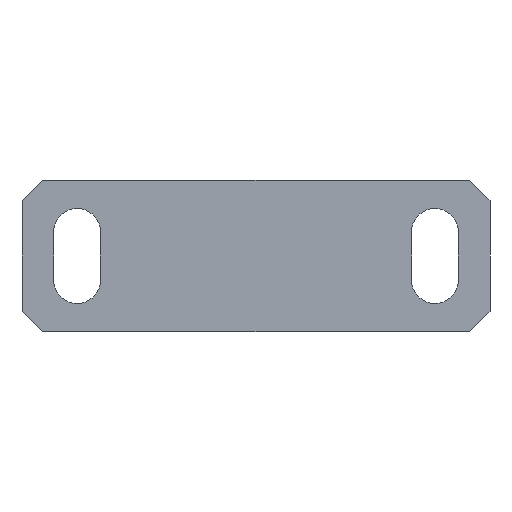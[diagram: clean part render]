
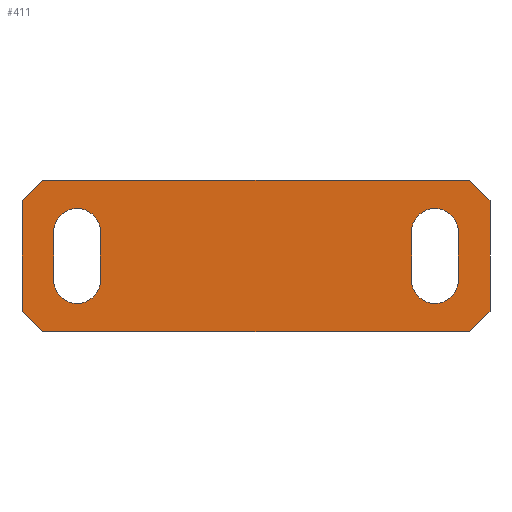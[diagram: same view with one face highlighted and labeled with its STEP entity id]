
A CAD part, front view. The second image highlights one B-rep face of the part: STEP entity #411.
In plain terms, the highlighted planar face has unit normal (0, -1, 0).
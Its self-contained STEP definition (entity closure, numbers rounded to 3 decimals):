
#9 = CARTESIAN_POINT ( 'NONE',  ( -14.7, -34., -1.75 ) ) ;
#11 = CARTESIAN_POINT ( 'NONE',  ( -14.7, -34., 1.75 ) ) ;
#12 = VERTEX_POINT ( 'NONE', #1282 ) ;
#16 = VERTEX_POINT ( 'NONE', #764 ) ;
#18 = VECTOR ( 'NONE', #109, 1000. ) ;
#24 = CARTESIAN_POINT ( 'NONE',  ( -17., -34., 5.5 ) ) ;
#29 = VERTEX_POINT ( 'NONE', #371 ) ;
#30 = LINE ( 'NONE', #11, #18 ) ;
#33 = CARTESIAN_POINT ( 'NONE',  ( 13., -34., 1.75 ) ) ;
#37 = CARTESIAN_POINT ( 'NONE',  ( 11.3, -34., 1.75 ) ) ;
#56 = VERTEX_POINT ( 'NONE', #673 ) ;
#62 = EDGE_CURVE ( 'NONE', #1117, #759, #774, .T. ) ;
#64 = VERTEX_POINT ( 'NONE', #163 ) ;
#65 = VECTOR ( 'NONE', #530, 1000. ) ;
#109 = DIRECTION ( 'NONE',  ( 0., 0., 1. ) ) ;
#110 = VERTEX_POINT ( 'NONE', #1139 ) ;
#114 = EDGE_CURVE ( 'NONE', #12, #1299, #610, .T. ) ;
#117 = VERTEX_POINT ( 'NONE', #1150 ) ;
#147 = ORIENTED_EDGE ( 'NONE', *, *, #972, .T. ) ;
#163 = CARTESIAN_POINT ( 'NONE',  ( -17., -34., -4. ) ) ;
#170 = AXIS2_PLACEMENT_3D ( 'NONE', #250, #968, #1273 ) ;
#176 = DIRECTION ( 'NONE',  ( -0.707, 0., 0.707 ) ) ;
#198 = DIRECTION ( 'NONE',  ( 0., 1., 0. ) ) ;
#201 = FACE_OUTER_BOUND ( 'NONE', #1275, .T. ) ;
#209 = EDGE_CURVE ( 'NONE', #485, #1133, #1016, .T. ) ;
#213 = EDGE_CURVE ( 'NONE', #110, #64, #1074, .T. ) ;
#226 = LINE ( 'NONE', #638, #933 ) ;
#230 = CARTESIAN_POINT ( 'NONE',  ( -13., -34., 1.75 ) ) ;
#232 = EDGE_CURVE ( 'NONE', #56, #1291, #651, .T. ) ;
#238 = LINE ( 'NONE', #1072, #792 ) ;
#242 = DIRECTION ( 'NONE',  ( 0., 1., 0. ) ) ;
#250 = CARTESIAN_POINT ( 'NONE',  ( 13., -34., -1.75 ) ) ;
#256 = DIRECTION ( 'NONE',  ( 0., 0., 1. ) ) ;
#285 = DIRECTION ( 'NONE',  ( 1., 0., 0. ) ) ;
#292 = VECTOR ( 'NONE', #285, 1000. ) ;
#295 = EDGE_CURVE ( 'NONE', #742, #117, #596, .T. ) ;
#301 = LINE ( 'NONE', #1110, #1039 ) ;
#307 = CARTESIAN_POINT ( 'NONE',  ( -15.5, -34., 5.5 ) ) ;
#317 = EDGE_LOOP ( 'NONE', ( #946, #1247, #458, #1265 ) ) ;
#321 = CARTESIAN_POINT ( 'NONE',  ( -17., -34., 5.5 ) ) ;
#322 = CARTESIAN_POINT ( 'NONE',  ( 17., -34., -4. ) ) ;
#339 = ORIENTED_EDGE ( 'NONE', *, *, #473, .T. ) ;
#347 = DIRECTION ( 'NONE',  ( 0., 1., 0. ) ) ;
#371 = CARTESIAN_POINT ( 'NONE',  ( -11.3, -34., 1.75 ) ) ;
#385 = CARTESIAN_POINT ( 'NONE',  ( -15.5, -34., -5.5 ) ) ;
#409 = DIRECTION ( 'NONE',  ( 0., 0., -1. ) ) ;
#411 = ADVANCED_FACE ( 'NONE', ( #494, #1119, #201 ), #609, .F. ) ;
#420 = DIRECTION ( 'NONE',  ( 1., 0., 0. ) ) ;
#431 = CARTESIAN_POINT ( 'NONE',  ( -13., -34., -1.75 ) ) ;
#438 = AXIS2_PLACEMENT_3D ( 'NONE', #33, #242, #527 ) ;
#442 = ORIENTED_EDGE ( 'NONE', *, *, #571, .T. ) ;
#448 = CARTESIAN_POINT ( 'NONE',  ( -17., -34., 5.5 ) ) ;
#458 = ORIENTED_EDGE ( 'NONE', *, *, #643, .T. ) ;
#473 = EDGE_CURVE ( 'NONE', #56, #110, #1026, .T. ) ;
#477 = EDGE_CURVE ( 'NONE', #1299, #16, #30, .T. ) ;
#478 = CARTESIAN_POINT ( 'NONE',  ( 15.5, -34., 5.5 ) ) ;
#482 = CARTESIAN_POINT ( 'NONE',  ( 14.7, -34., 1.75 ) ) ;
#485 = VERTEX_POINT ( 'NONE', #612 ) ;
#494 = FACE_BOUND ( 'NONE', #317, .T. ) ;
#522 = ORIENTED_EDGE ( 'NONE', *, *, #232, .F. ) ;
#527 = DIRECTION ( 'NONE',  ( 1., 0., 0. ) ) ;
#530 = DIRECTION ( 'NONE',  ( -0.707, 0., -0.707 ) ) ;
#533 = DIRECTION ( 'NONE',  ( 0.707, 0., -0.707 ) ) ;
#545 = ORIENTED_EDGE ( 'NONE', *, *, #213, .T. ) ;
#559 = EDGE_LOOP ( 'NONE', ( #675, #738, #669, #1040 ) ) ;
#562 = CARTESIAN_POINT ( 'NONE',  ( 17., -34., 5.5 ) ) ;
#569 = LINE ( 'NONE', #478, #894 ) ;
#571 = EDGE_CURVE ( 'NONE', #117, #759, #238, .T. ) ;
#596 = LINE ( 'NONE', #686, #292 ) ;
#609 = PLANE ( 'NONE',  #635 ) ;
#610 = CIRCLE ( 'NONE', #905, 1.7 ) ;
#612 = CARTESIAN_POINT ( 'NONE',  ( 11.3, -34., 1.75 ) ) ;
#616 = EDGE_CURVE ( 'NONE', #1096, #485, #1248, .T. ) ;
#631 = VECTOR ( 'NONE', #256, 1000. ) ;
#635 = AXIS2_PLACEMENT_3D ( 'NONE', #24, #198, #1242 ) ;
#638 = CARTESIAN_POINT ( 'NONE',  ( -17., -34., -4. ) ) ;
#643 = EDGE_CURVE ( 'NONE', #16, #29, #1192, .T. ) ;
#651 = LINE ( 'NONE', #448, #824 ) ;
#658 = VECTOR ( 'NONE', #731, 1000. ) ;
#666 = CARTESIAN_POINT ( 'NONE',  ( 14.7, -34., -1.75 ) ) ;
#669 = ORIENTED_EDGE ( 'NONE', *, *, #209, .T. ) ;
#673 = CARTESIAN_POINT ( 'NONE',  ( -15.5, -34., 5.5 ) ) ;
#675 = ORIENTED_EDGE ( 'NONE', *, *, #942, .T. ) ;
#686 = CARTESIAN_POINT ( 'NONE',  ( -17., -34., -5.5 ) ) ;
#731 = DIRECTION ( 'NONE',  ( 0., 0., -1. ) ) ;
#738 = ORIENTED_EDGE ( 'NONE', *, *, #616, .T. ) ;
#742 = VERTEX_POINT ( 'NONE', #385 ) ;
#744 = CIRCLE ( 'NONE', #170, 1.7 ) ;
#759 = VERTEX_POINT ( 'NONE', #322 ) ;
#760 = DIRECTION ( 'NONE',  ( -1., 0., 0. ) ) ;
#764 = CARTESIAN_POINT ( 'NONE',  ( -14.7, -34., 1.75 ) ) ;
#774 = LINE ( 'NONE', #562, #1125 ) ;
#792 = VECTOR ( 'NONE', #845, 1000. ) ;
#813 = EDGE_CURVE ( 'NONE', #64, #742, #226, .T. ) ;
#824 = VECTOR ( 'NONE', #420, 1000. ) ;
#839 = DIRECTION ( 'NONE',  ( 0., 1., 0. ) ) ;
#845 = DIRECTION ( 'NONE',  ( 0.707, 0., 0.707 ) ) ;
#894 = VECTOR ( 'NONE', #176, 1000. ) ;
#905 = AXIS2_PLACEMENT_3D ( 'NONE', #431, #839, #1233 ) ;
#922 = ORIENTED_EDGE ( 'NONE', *, *, #62, .F. ) ;
#933 = VECTOR ( 'NONE', #533, 1000. ) ;
#942 = EDGE_CURVE ( 'NONE', #1137, #1096, #744, .T. ) ;
#946 = ORIENTED_EDGE ( 'NONE', *, *, #114, .T. ) ;
#968 = DIRECTION ( 'NONE',  ( 0., 1., 0. ) ) ;
#972 = EDGE_CURVE ( 'NONE', #1117, #1291, #569, .T. ) ;
#978 = AXIS2_PLACEMENT_3D ( 'NONE', #230, #347, #760 ) ;
#1006 = CARTESIAN_POINT ( 'NONE',  ( 15.5, -34., 5.5 ) ) ;
#1016 = CIRCLE ( 'NONE', #438, 1.7 ) ;
#1026 = LINE ( 'NONE', #307, #65 ) ;
#1039 = VECTOR ( 'NONE', #409, 1000. ) ;
#1040 = ORIENTED_EDGE ( 'NONE', *, *, #1115, .T. ) ;
#1064 = CARTESIAN_POINT ( 'NONE',  ( 11.3, -34., -1.75 ) ) ;
#1072 = CARTESIAN_POINT ( 'NONE',  ( 17., -34., -4. ) ) ;
#1074 = LINE ( 'NONE', #321, #658 ) ;
#1084 = CARTESIAN_POINT ( 'NONE',  ( 17., -34., 4. ) ) ;
#1089 = DIRECTION ( 'NONE',  ( 0., 0., -1. ) ) ;
#1096 = VERTEX_POINT ( 'NONE', #1064 ) ;
#1110 = CARTESIAN_POINT ( 'NONE',  ( -11.3, -34., 1.75 ) ) ;
#1115 = EDGE_CURVE ( 'NONE', #1133, #1137, #1287, .T. ) ;
#1117 = VERTEX_POINT ( 'NONE', #1084 ) ;
#1119 = FACE_BOUND ( 'NONE', #559, .T. ) ;
#1125 = VECTOR ( 'NONE', #1089, 1000. ) ;
#1133 = VERTEX_POINT ( 'NONE', #482 ) ;
#1137 = VERTEX_POINT ( 'NONE', #666 ) ;
#1139 = CARTESIAN_POINT ( 'NONE',  ( -17., -34., 4. ) ) ;
#1150 = CARTESIAN_POINT ( 'NONE',  ( 15.5, -34., -5.5 ) ) ;
#1164 = CARTESIAN_POINT ( 'NONE',  ( 14.7, -34., 1.75 ) ) ;
#1191 = ORIENTED_EDGE ( 'NONE', *, *, #813, .T. ) ;
#1192 = CIRCLE ( 'NONE', #978, 1.7 ) ;
#1233 = DIRECTION ( 'NONE',  ( -1., 0., 0. ) ) ;
#1238 = ORIENTED_EDGE ( 'NONE', *, *, #295, .T. ) ;
#1242 = DIRECTION ( 'NONE',  ( -1., 0., 0. ) ) ;
#1247 = ORIENTED_EDGE ( 'NONE', *, *, #477, .T. ) ;
#1248 = LINE ( 'NONE', #37, #631 ) ;
#1265 = ORIENTED_EDGE ( 'NONE', *, *, #1286, .T. ) ;
#1273 = DIRECTION ( 'NONE',  ( 1., 0., 0. ) ) ;
#1275 = EDGE_LOOP ( 'NONE', ( #922, #147, #522, #339, #545, #1191, #1238, #442 ) ) ;
#1279 = VECTOR ( 'NONE', #1297, 1000. ) ;
#1282 = CARTESIAN_POINT ( 'NONE',  ( -11.3, -34., -1.75 ) ) ;
#1286 = EDGE_CURVE ( 'NONE', #29, #12, #301, .T. ) ;
#1287 = LINE ( 'NONE', #1164, #1279 ) ;
#1291 = VERTEX_POINT ( 'NONE', #1006 ) ;
#1297 = DIRECTION ( 'NONE',  ( 0., 0., -1. ) ) ;
#1299 = VERTEX_POINT ( 'NONE', #9 ) ;
